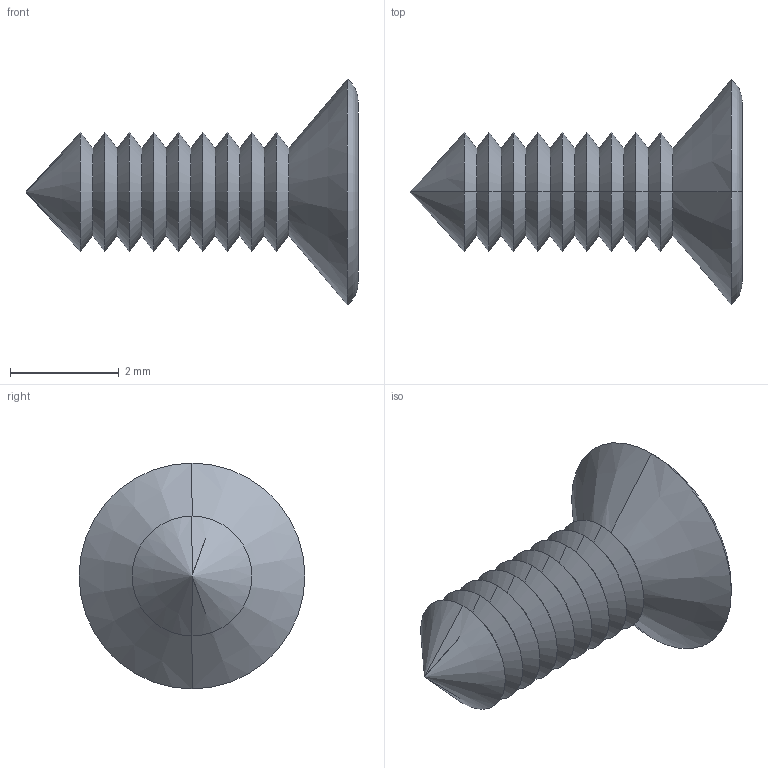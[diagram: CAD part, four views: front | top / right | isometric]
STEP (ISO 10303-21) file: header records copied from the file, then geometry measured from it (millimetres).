
FILE_DESCRIPTION (( 'STEP AP214' ), '1' );
FILE_NAME ('Cargol 2,2x6,5 PP23.STEP', '2017-11-28T11:06:50', ( 'aaa' ), ( '' ), 'SwSTEP 2.0', 'SolidWorks 2013', '' );
FILE_SCHEMA (( 'AUTOMOTIVE_DESIGN' ));
Length unit declared in the file: millimetre
Products named in the file (1): Cargol 2,2x6,5 PP23
Bounding box: 6.1 x 4.15 x 4.15 mm (x, y, z)
Volume: 21.6 mm3; surface area: 75.1 mm2
Topology: 1 solids, 1 shells, 54 faces, 118 edges, 65 vertices
Faces by surface type: cone 38, plane 14, torus 2
Entity records: 1460 total; most frequent: DIRECTION 268, CARTESIAN_POINT 236, ORIENTED_EDGE 232, EDGE_CURVE 116, AXIS2_PLACEMENT_3D 97, LINE 74, VECTOR 74, VERTEX_POINT 65
